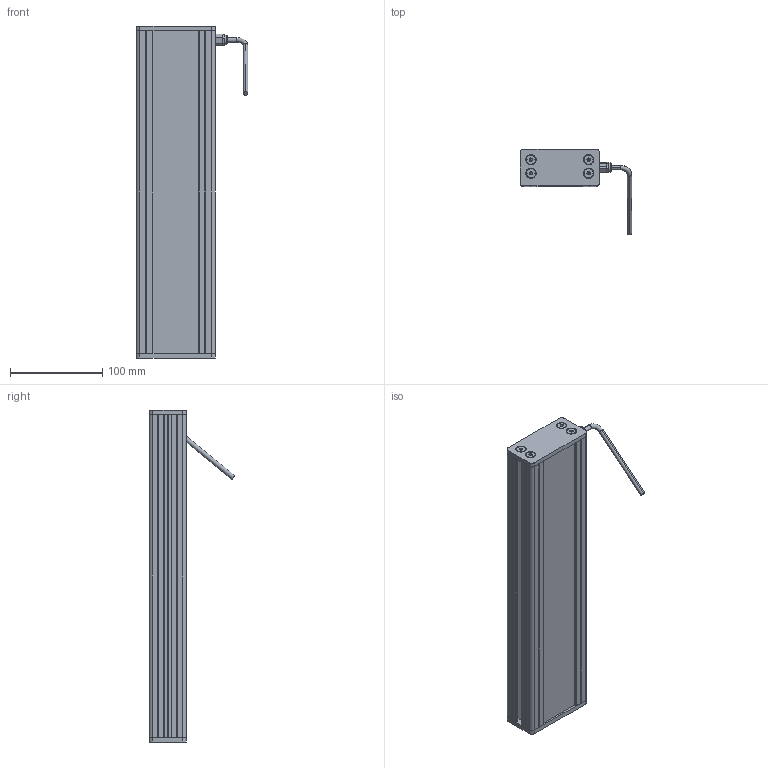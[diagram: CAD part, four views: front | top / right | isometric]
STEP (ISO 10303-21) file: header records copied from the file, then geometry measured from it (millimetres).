
FILE_DESCRIPTION (( 'STEP AP214' ), '1' );
FILE_NAME ('EFFI-BL-50-350T-1M12.STEP', '2021-07-02T08:38:33', ( '' ), ( '' ), 'SwSTEP 2.0', 'SolidWorks 2021', '' );
FILE_SCHEMA (( 'AUTOMOTIVE_DESIGN' ));
Length unit declared in the file: millimetre
Products named in the file (8): cordon_Avec cable; 003776; EFFI-BL-50-350T-1M12; bord fin modif_lg 436.5 mm; profile modif_lg 99.5 mm; Pièce2^EFFI-BL-XXX-YYYT + M12
Assembly tree (14 placements, depth 2):
  EFFI-BL-50-350T-1M12
    bord fin modif_lg 436.5 mm  x2
    profile modif_lg 99.5 mm
    Pièce2^EFFI-BL-XXX-YYYT + M12
    profile modif_lg 99.5 mm
    003776  x7
    003776
    cordon_Avec cable
Bounding box: 121.15 x 92.99 x 360 mm (x, y, z)
Volume: 1062728.5 mm3; surface area: 188032.1 mm2
Topology: 13 solids, 19 shells, 592 faces, 1498 edges, 959 vertices
Faces by surface type: plane 335, bspline 131, cylinder 97, cone 19, torus 10
Entity records: 17147 total; most frequent: CARTESIAN_POINT 5464, ORIENTED_EDGE 2224, DIRECTION 1942, EDGE_CURVE 1116, VECTOR 808, LINE 808, VERTEX_POINT 733, AXIS2_PLACEMENT_3D 567
